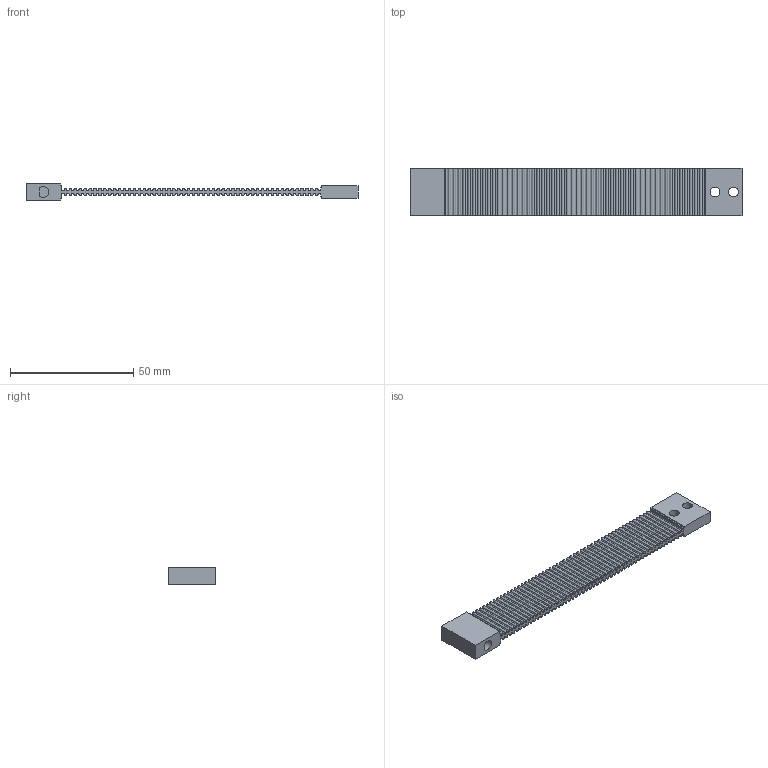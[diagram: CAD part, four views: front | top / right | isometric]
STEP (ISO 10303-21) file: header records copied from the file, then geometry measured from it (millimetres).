
FILE_DESCRIPTION(/* description */ (''),/* implementation_level */ '2;1');
FILE_NAME(/* name */ 'C:\Users\Diego\Downloads\9\Animalitos\Brazo2.stp',/* time_stamp */ '2019-06-27T21:24:12-04:00',/* author */ ('Diego'),/* organization */ (''),/* preprocessor_version */ 'ST-DEVELOPER v16.5',/* originating_system */ 'Autodesk Inventor 2017',/* authorisation */ '');
FILE_SCHEMA (('AUTOMOTIVE_DESIGN { 1 0 10303 214 3 1 1 }'));
Length unit declared in the file: millimetre
Products named in the file (1): Brazo2
Bounding box: 134.7 x 19.24 x 7 mm (x, y, z)
Volume: 7099.9 mm3; surface area: 8884.4 mm2
Topology: 1 solids, 1 shells, 241 faces, 713 edges, 475 vertices
Faces by surface type: cylinder 222, plane 18, cone 1
Full cylindrical faces by diameter (mm): 3.9 x1, 4 x2
Entity records: 8333 total; most frequent: DIRECTION 1636, CARTESIAN_POINT 1424, ORIENTED_EDGE 1416, EDGE_CURVE 708, AXIS2_PLACEMENT_3D 686, VERTEX_POINT 474, CIRCLE 444, LINE 264
